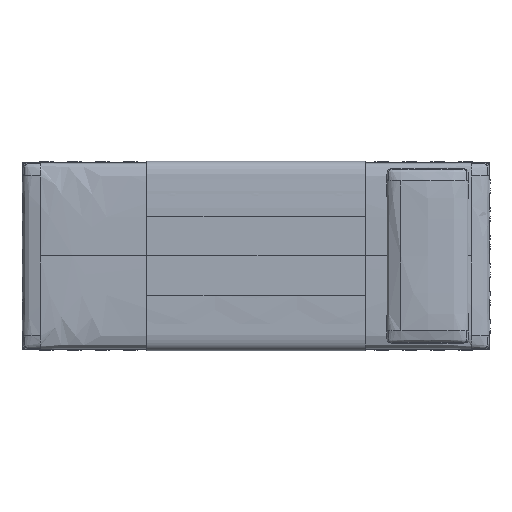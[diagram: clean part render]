
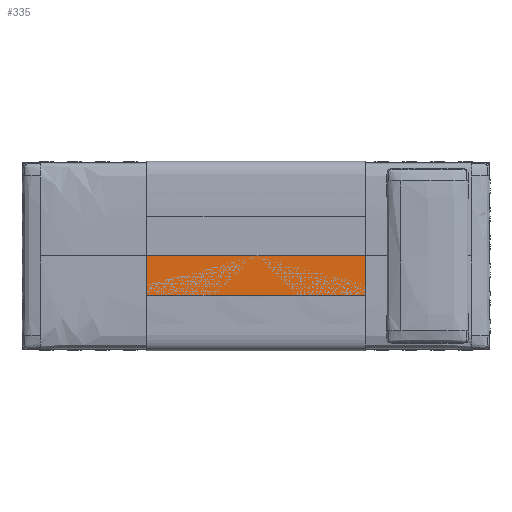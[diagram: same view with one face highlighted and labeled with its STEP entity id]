
A CAD part, top view. The second image highlights one B-rep face of the part: STEP entity #335.
In plain terms, the highlighted free-form (B-spline) face has degree [3, 1] with [7, 2] control points.
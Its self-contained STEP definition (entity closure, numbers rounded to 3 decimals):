
#335=ADVANCED_FACE('',(#659),#4657,.T.);
#659=FACE_OUTER_BOUND('',#983,.T.);
#983=EDGE_LOOP('',(#1334,#1335,#1336,#1337));
#1334=ORIENTED_EDGE('',*,*,#2694,.F.);
#1335=ORIENTED_EDGE('',*,*,#2779,.T.);
#1336=ORIENTED_EDGE('',*,*,#2695,.T.);
#1337=ORIENTED_EDGE('',*,*,#2781,.F.);
#2694=EDGE_CURVE('',#4086,#4087,#3770,.T.);
#2695=EDGE_CURVE('',#4089,#4088,#3771,.T.);
#2779=EDGE_CURVE('',#4086,#4089,#3825,.T.);
#2781=EDGE_CURVE('',#4087,#4088,#3827,.T.);
#3770=(
BOUNDED_CURVE()
B_SPLINE_CURVE(1,(#7660,#7661),.UNSPECIFIED.,.F.,.F.)
B_SPLINE_CURVE_WITH_KNOTS((2,2),(0.3,939.7),
 .UNSPECIFIED.)
CURVE()
GEOMETRIC_REPRESENTATION_ITEM()
RATIONAL_B_SPLINE_CURVE((1.,1.))
REPRESENTATION_ITEM('')
);
#3771=(
BOUNDED_CURVE()
B_SPLINE_CURVE(1,(#7662,#7663),.UNSPECIFIED.,.F.,.F.)
B_SPLINE_CURVE_WITH_KNOTS((2,2),(0.3,939.7),
 .UNSPECIFIED.)
CURVE()
GEOMETRIC_REPRESENTATION_ITEM()
RATIONAL_B_SPLINE_CURVE((1.,1.))
REPRESENTATION_ITEM('')
);
#3825=(
BOUNDED_CURVE()
B_SPLINE_CURVE(1,(#7969,#7970),.UNSPECIFIED.,.F.,.F.)
B_SPLINE_CURVE_WITH_KNOTS((2,2),(0.,335.413),
 .UNSPECIFIED.)
CURVE()
GEOMETRIC_REPRESENTATION_ITEM()
RATIONAL_B_SPLINE_CURVE((1.,1.))
REPRESENTATION_ITEM('')
);
#3827=(
BOUNDED_CURVE()
B_SPLINE_CURVE(1,(#7974,#7975),.UNSPECIFIED.,.F.,.F.)
B_SPLINE_CURVE_WITH_KNOTS((2,2),(0.,335.413),
 .UNSPECIFIED.)
CURVE()
GEOMETRIC_REPRESENTATION_ITEM()
RATIONAL_B_SPLINE_CURVE((1.,1.))
REPRESENTATION_ITEM('')
);
#4086=VERTEX_POINT('',#7510);
#4087=VERTEX_POINT('',#7511);
#4088=VERTEX_POINT('',#7512);
#4089=VERTEX_POINT('',#7513);
#4657=(
BOUNDED_SURFACE()
B_SPLINE_SURFACE(3,1,((#5208,#5209),(#5210,#5211),(#5212,#5213),(#5214,
#5215),(#5216,#5217),(#5218,#5219),(#5220,#5221)),.UNSPECIFIED.,.F.,.F.,
 .F.)
B_SPLINE_SURFACE_WITH_KNOTS((4,3,4),(2,2),(172.599,173.599,
174.599),(0.,940.),.UNSPECIFIED.)
GEOMETRIC_REPRESENTATION_ITEM()
RATIONAL_B_SPLINE_SURFACE(((1.,1.),(1.,1.),(1.,1.),(1.,1.),(1.,1.),(1.,
1.),(1.,1.)))
REPRESENTATION_ITEM('')
SURFACE()
);
#5208=CARTESIAN_POINT('',(1470.,567.707,384.192));
#5209=CARTESIAN_POINT('',(530.,567.707,384.192));
#5210=CARTESIAN_POINT('',(1470.,505.156,384.192));
#5211=CARTESIAN_POINT('',(530.,505.156,384.192));
#5212=CARTESIAN_POINT('',(1470.,452.578,384.192));
#5213=CARTESIAN_POINT('',(530.,452.578,384.192));
#5214=CARTESIAN_POINT('',(1470.,400.,384.192));
#5215=CARTESIAN_POINT('',(530.,400.,384.192));
#5216=CARTESIAN_POINT('',(1470.,347.422,384.192));
#5217=CARTESIAN_POINT('',(530.,347.422,384.192));
#5218=CARTESIAN_POINT('',(1470.,294.844,384.192));
#5219=CARTESIAN_POINT('',(530.,294.844,384.192));
#5220=CARTESIAN_POINT('',(1470.,232.293,384.192));
#5221=CARTESIAN_POINT('',(530.,232.293,384.192));
#7510=CARTESIAN_POINT('',(1469.7,567.707,384.192));
#7511=CARTESIAN_POINT('',(530.3,567.707,384.192));
#7512=CARTESIAN_POINT('',(530.3,232.293,384.192));
#7513=CARTESIAN_POINT('',(1469.7,232.293,384.192));
#7660=CARTESIAN_POINT('',(1469.7,567.707,384.192));
#7661=CARTESIAN_POINT('',(530.3,567.707,384.192));
#7662=CARTESIAN_POINT('',(1469.7,232.293,384.192));
#7663=CARTESIAN_POINT('',(530.3,232.293,384.192));
#7969=CARTESIAN_POINT('',(1469.7,567.707,384.192));
#7970=CARTESIAN_POINT('',(1469.7,232.293,384.192));
#7974=CARTESIAN_POINT('',(530.3,567.707,384.192));
#7975=CARTESIAN_POINT('',(530.3,232.293,384.192));
